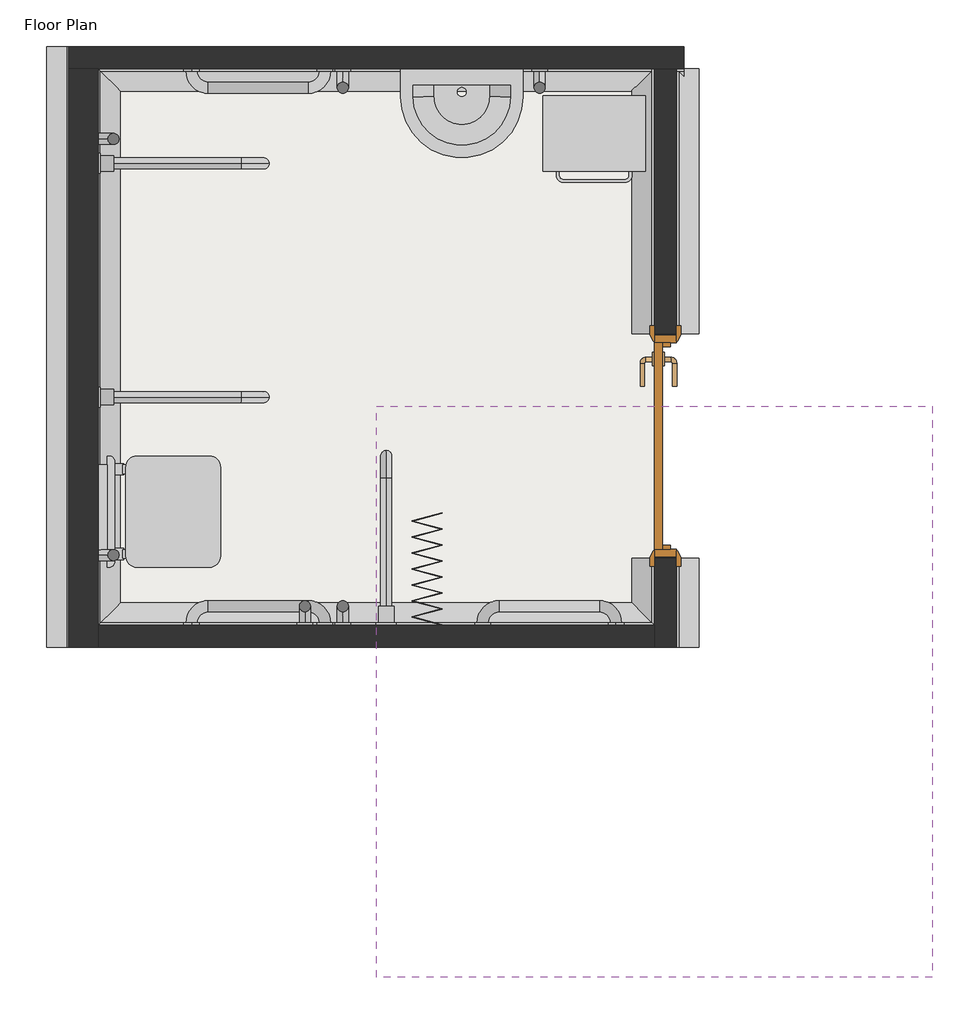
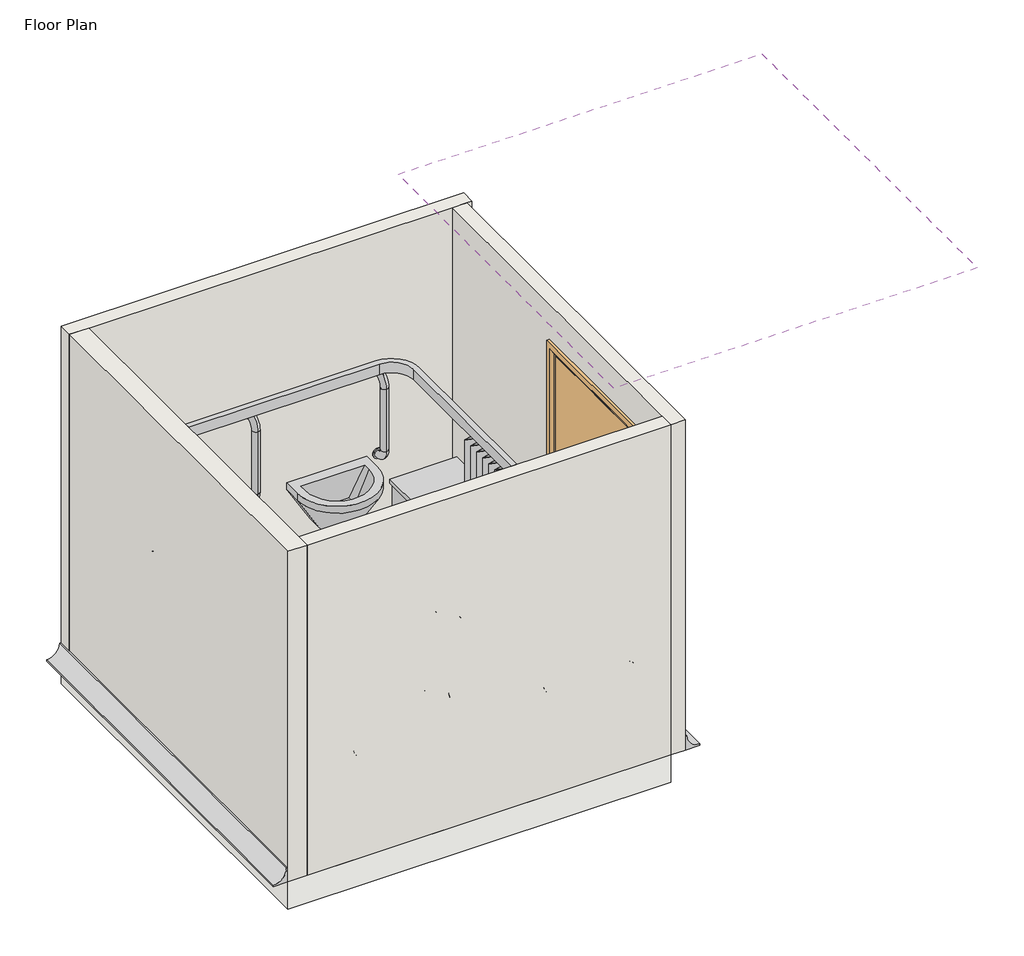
# One storey, incomplete: 19 proxies, 4 walls, 2 furniture elements, 1 covering, 1 door, 1 flow terminal, 1 slab.
"""IFC4 building model written with IfcOpenShell, lengths in millimetres."""

from ifc_helpers import new_model, si_unit, point, frame, frame_2d, origin, origin_with_axes, place, context, project, spatial, polyline, circle_curve, ellipse_curve, trimmed, segment, composite_curve, outline, extrude, faceted_brep, transform, mapped, element, save
from ifc_brep_helpers import plane_surface, revolved_surface, advanced_brep
from components import generic_models_b4c89709, type_1_021b8e3e, type_1_3e4eb001, type_1_f4c963d5, type_1_f76a5bbc, type_1_f275d547, type_1_63a6e16b, type_1_defd54e1, type_1_91922403, door_1010x2110mm_ad0e13af, flow_terminal_9bf15598, furniture_46abfedd, furniture_af9008cf

model = new_model("IFC4")

# Units and contexts
model_context = context("Model", 3, world=origin())
ifc_project = project(units=[si_unit("LENGTHUNIT", "METRE", prefix="MILLI")], contexts=[model_context])

# Site, building, storey
site = spatial("IfcSite", under=ifc_project)
building = spatial("IfcBuilding", under=site)
storey = spatial("IfcBuildingStorey", under=building, Name="Floor Plan", Elevation=0.0)

# Proxies
placement = place(None, origin())
element("IfcBuildingElementProxy", 1, Name="Wall Sweeps", at=placement, inside=storey, context=model_context, shape_type="SweptSolid", body=[
    extrude(outline(composite_curve([segment(polyline([(0.0, 2105.0), (0.0, 2205.0), (10.0, 2205.0)]), True, "CONTINUOUS"), segment(trimmed(circle_curve(frame_2d((100.0, 2205.0)), 90.0), [point((10.0, 2205.0))], [point((100.0, 2115.0))], True, "CARTESIAN"), True, "CONTINUOUS"), segment(polyline([(100.0, 2115.0), (100.0, 2105.0), (0.0, 2105.0)]), True, "CONTINUOUS")], self_intersect=False)), frame((0.0, 2815.0, 0.0), z_axis=(0.0, 1.0, 0.0), x_axis=(0.0, 0.0, 1.0)), (0.0, 0.0, 1.0), 400.0),
    extrude(outline(composite_curve([segment(polyline([(0.0, 2105.0), (0.0, 2205.0), (10.0, 2205.0)]), True, "CONTINUOUS"), segment(trimmed(circle_curve(frame_2d((100.0, 2205.0)), 90.0), [point((10.0, 2205.0))], [point((100.0, 2115.0))], True, "CARTESIAN"), True, "CONTINUOUS"), segment(polyline([(100.0, 2115.0), (100.0, 2105.0), (0.0, 2105.0)]), True, "CONTINUOUS")], self_intersect=False)), frame((0.0, 4225.0, 0.0), z_axis=(0.0, 1.0, 0.0), x_axis=(0.0, 0.0, 1.0)), (0.0, 0.0, 1.0), 1190.0),
])
element("IfcBuildingElementProxy", 2, Name="Wall Sweeps", at=placement, inside=storey, context=model_context, shape_type="AdvancedBrep", body=[
    advanced_brep(
    [(-495.0, 5415.0, 0.0), (-395.0, 5315.0, 0.0), (-395.0, 5315.0, 10.0), (-485.0, 5405.0, 100.0), (-495.0, 5415.0, 100.0), (2139.0, 5415.0, 0.0), (2139.0, 5415.0, 100.0), (2139.0, 5405.0, 100.0), (2139.0, 5315.0, 10.0), (2139.0, 5315.0, 0.0)],
    [
        (0, 1),
        (1, 2),
        (2, 3, ellipse_curve(frame((-395.0, 5315.0, 100.0), z_axis=(0.7071067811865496, 0.7071067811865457, 0.0), x_axis=(0.7071067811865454, -0.7071067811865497, 0.0)), 127.2792206, 90.0)),
        (3, 4),
        (4, 0),
        (5, 6),
        (6, 7),
        (7, 8, circle_curve(frame((2139.0, 5315.0, 100.0), z_axis=(-1.0, 0.0, 0.0), x_axis=(0.0, -1.0, 0.0)), 90.0)),
        (8, 9),
        (9, 5),
        (0, 5),
        (9, 1),
        (8, 2),
        (7, 3),
        (6, 4),
    ],
    [
        plane_surface(frame((-495.0, 5415.0, 304.8), z_axis=(-0.7071067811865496, -0.7071067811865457, 0.0), x_axis=(0.7071067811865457, -0.7071067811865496, 0.0))),
        plane_surface(frame((2139.0, 5415.0, -100.4987562), z_axis=(1.0, 0.0, 0.0), x_axis=(0.0, 1.0, 0.0))),
        plane_surface(frame((-495.0, 5415.0, 0.0), z_axis=(0.0, 0.0, -1.0), x_axis=(1.0, 0.0, 0.0))),
        plane_surface(frame((-395.0, 5315.0, 0.0), z_axis=(0.0, -1.0, 0.0), x_axis=(1.0, 0.0, 0.0))),
        revolved_surface(polyline([(2139.0, 5225.0, 100.0), (-485.0, 5225.0, 100.0)]), (-495.0, 5315.0, 100.0), (1.0, 0.0, 0.0)),
        plane_surface(frame((-485.0, 5405.0, 100.0), z_axis=(0.0, 0.0, 1.0), x_axis=(1.0, 0.0, 0.0))),
        plane_surface(frame((-495.0, 5415.0, 100.0), z_axis=(0.0, 1.0, 0.0), x_axis=(1.0, 0.0, 0.0))),
    ],
    [
        (0, [[1, 2, 3, 4, 5]]),
        (1, [[6, 7, 8, 9, 10]]),
        (2, [[-1, 11, -10, 12]]),
        (3, [[-2, -12, -9, 13]]),
        (4, [[-3, -13, -8, 14]]),
        (5, [[-4, -14, -7, 15]]),
        (6, [[-5, -15, -6, -11]]),
    ],
),
])
element("IfcBuildingElementProxy", 3, Name="Wall Sweeps", at=placement, inside=storey, context=model_context, shape_type="AdvancedBrep", body=[
    advanced_brep(
    [(-495.0, 5415.0, 0.0), (-495.0, 5415.0, 100.0), (-485.0, 5405.0, 100.0), (-395.0, 5315.0, 10.0), (-395.0, 5315.0, 0.0), (-495.0, 2915.0, 0.0), (-395.0, 3015.0, 0.0), (-395.0, 3015.0, 10.0), (-485.0, 2925.0, 100.0), (-495.0, 2915.0, 100.0)],
    [
        (0, 1),
        (1, 2),
        (2, 3, ellipse_curve(frame((-395.0, 5315.0, 100.0), z_axis=(-0.7071067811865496, -0.7071067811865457, 0.0), x_axis=(0.7071067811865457, -0.7071067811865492, 0.0)), 127.2792206, 90.0)),
        (3, 4),
        (4, 0),
        (5, 6),
        (6, 7),
        (7, 8, ellipse_curve(frame((-395.0, 3015.0, 100.0), z_axis=(-0.707106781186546, 0.7071067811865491, 0.0), x_axis=(-0.7071067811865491, -0.7071067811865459, 0.0)), 127.2792206, 90.0)),
        (8, 9),
        (9, 5),
        (0, 5),
        (9, 1),
        (8, 2),
        (7, 3),
        (6, 4),
    ],
    [
        plane_surface(frame((-495.0, 5415.0, -304.8), z_axis=(0.7071067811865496, 0.7071067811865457, 0.0), x_axis=(0.7071067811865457, -0.7071067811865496, 0.0))),
        plane_surface(frame((-495.0, 2915.0, -304.8), z_axis=(0.707106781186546, -0.7071067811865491, 0.0), x_axis=(0.7071067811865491, 0.707106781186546, 0.0))),
        plane_surface(frame((-495.0, 5415.0, 0.0), z_axis=(-1.0, 0.0, 0.0), x_axis=(0.0, -1.0, 0.0))),
        plane_surface(frame((-495.0, 5415.0, 100.0), z_axis=(0.0, 0.0, 1.0), x_axis=(0.0, -1.0, 0.0))),
        revolved_surface(polyline([(-305.0, 2925.0, 100.0), (-305.0, 5405.0, 100.0)]), (-395.0, 5415.0, 100.0), (0.0, -1.0, 0.0)),
        plane_surface(frame((-395.0, 5315.0, 10.0), z_axis=(1.0, 0.0, 0.0), x_axis=(0.0, -1.0, 0.0))),
        plane_surface(frame((-395.0, 5315.0, 0.0), z_axis=(0.0, 0.0, -1.0), x_axis=(0.0, -1.0, 0.0))),
    ],
    [
        (0, [[1, 2, 3, 4, 5]]),
        (1, [[6, 7, 8, 9, 10]]),
        (2, [[-1, 11, -10, 12]]),
        (3, [[-2, -12, -9, 13]]),
        (4, [[-3, -13, -8, 14]]),
        (5, [[-4, -14, -7, 15]]),
        (6, [[-5, -15, -6, -11]]),
    ],
),
])
element("IfcBuildingElementProxy", 4, Name="Wall Sweeps", at=placement, inside=storey, context=model_context, shape_type="AdvancedBrep", body=[
    advanced_brep(
    [(-495.0, 2915.0, 0.0), (-495.0, 2915.0, 100.0), (-485.0, 2925.0, 100.0), (-395.0, 3015.0, 10.0), (-395.0, 3015.0, 0.0), (2005.0, 2915.0, 0.0), (1905.0, 3015.0, 0.0), (1905.0, 3015.0, 10.0), (1995.0, 2925.0, 100.0), (2005.0, 2915.0, 100.0)],
    [
        (0, 1),
        (1, 2),
        (2, 3, ellipse_curve(frame((-395.0, 3015.0, 100.0), z_axis=(0.707106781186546, -0.7071067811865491, 0.0), x_axis=(0.707106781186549, 0.707106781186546, 0.0)), 127.2792206, 90.0)),
        (3, 4),
        (4, 0),
        (5, 6),
        (6, 7),
        (7, 8, ellipse_curve(frame((1905.0, 3015.0, 100.0), z_axis=(-0.7071067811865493, -0.7071067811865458, 0.0), x_axis=(0.7071067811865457, -0.7071067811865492, 0.0)), 127.2792206, 90.0)),
        (8, 9),
        (9, 5),
        (0, 5),
        (9, 1),
        (8, 2),
        (7, 3),
        (6, 4),
    ],
    [
        plane_surface(frame((-495.0, 2915.0, -304.8), z_axis=(-0.707106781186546, 0.7071067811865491, 0.0), x_axis=(0.7071067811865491, 0.707106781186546, 0.0))),
        plane_surface(frame((2005.0, 2915.0, -304.8), z_axis=(0.7071067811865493, 0.7071067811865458, 0.0), x_axis=(-0.7071067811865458, 0.7071067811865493, 0.0))),
        plane_surface(frame((-495.0, 2915.0, 0.0), z_axis=(0.0, -1.0, 0.0), x_axis=(1.0, 0.0, 0.0))),
        plane_surface(frame((-495.0, 2915.0, 100.0), z_axis=(0.0, 0.0, 1.0), x_axis=(1.0, 0.0, 0.0))),
        revolved_surface(polyline([(1995.0, 3105.0, 100.0), (-485.0, 3105.0, 100.0)]), (-495.0, 3015.0, 100.0), (1.0, 0.0, 0.0)),
        plane_surface(frame((-395.0, 3015.0, 10.0), z_axis=(0.0, 1.0, 0.0), x_axis=(1.0, 0.0, 0.0))),
        plane_surface(frame((-395.0, 3015.0, 0.0), z_axis=(0.0, 0.0, -1.0), x_axis=(1.0, 0.0, 0.0))),
    ],
    [
        (0, [[1, 2, 3, 4, 5]]),
        (1, [[6, 7, 8, 9, 10]]),
        (2, [[-1, 11, -10, 12]]),
        (3, [[-2, -12, -9, 13]]),
        (4, [[-3, -13, -8, 14]]),
        (5, [[-4, -14, -7, 15]]),
        (6, [[-5, -15, -6, -11]]),
    ],
),
])
element("IfcBuildingElementProxy", 5, Name="Wall Sweeps", at=placement, inside=storey, context=model_context, shape_type="AdvancedBrep", body=[
    advanced_brep(
    [(2005.0, 2915.0, 0.0), (2005.0, 2915.0, 100.0), (1995.0, 2925.0, 100.0), (1905.0, 3015.0, 10.0), (1905.0, 3015.0, 0.0), (2005.0, 3215.0, 0.0), (1905.0, 3215.0, 0.0), (1905.0, 3215.0, 10.0), (1995.0, 3215.0, 100.0), (2005.0, 3215.0, 100.0)],
    [
        (0, 1),
        (1, 2),
        (2, 3, ellipse_curve(frame((1905.0, 3015.0, 100.0), z_axis=(0.7071067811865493, 0.7071067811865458, 0.0), x_axis=(-0.7071067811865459, 0.7071067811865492, 0.0)), 127.2792206, 90.0)),
        (3, 4),
        (4, 0),
        (5, 6),
        (6, 7),
        (7, 8, circle_curve(frame((1905.0, 3215.0, 100.0), z_axis=(0.0, -1.0, 0.0), x_axis=(-1.0, 0.0, 0.0)), 90.0)),
        (8, 9),
        (9, 5),
        (0, 5),
        (9, 1),
        (8, 2),
        (7, 3),
        (6, 4),
    ],
    [
        plane_surface(frame((2005.0, 2915.0, -304.8), z_axis=(-0.7071067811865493, -0.7071067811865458, 0.0), x_axis=(-0.7071067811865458, 0.7071067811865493, 0.0))),
        plane_surface(frame((1904.5012438, 3215.0, 0.0), z_axis=(0.0, 1.0, 0.0), x_axis=(0.0, 0.0, 1.0))),
        plane_surface(frame((2005.0, 2915.0, 0.0), z_axis=(1.0, 0.0, 0.0), x_axis=(0.0, 1.0, 0.0))),
        plane_surface(frame((2005.0, 2915.0, 100.0), z_axis=(0.0, 0.0, 1.0), x_axis=(0.0, 1.0, 0.0))),
        revolved_surface(polyline([(1815.0, 3215.0, 100.0), (1815.0, 2925.0, 100.0)]), (1905.0, 2915.0, 100.0), (0.0, 1.0, 0.0)),
        plane_surface(frame((1905.0, 3015.0, 10.0), z_axis=(-1.0, 0.0, 0.0), x_axis=(0.0, 1.0, 0.0))),
        plane_surface(frame((1905.0, 3015.0, 0.0), z_axis=(0.0, 0.0, -1.0), x_axis=(0.0, 1.0, 0.0))),
    ],
    [
        (0, [[1, 2, 3, 4, 5]]),
        (1, [[6, 7, 8, 9, 10]]),
        (2, [[-1, 11, -10, 12]]),
        (3, [[-2, -12, -9, 13]]),
        (4, [[-3, -13, -8, 14]]),
        (5, [[-4, -14, -7, 15]]),
        (6, [[-5, -15, -6, -11]]),
    ],
),
    advanced_brep(
    [(2005.0, 4225.0, 0.0), (2005.0, 4225.0, 100.0), (1995.0, 4225.0, 100.0), (1905.0, 4225.0, 10.0), (1905.0, 4225.0, 0.0), (2005.0, 5415.0, 0.0), (1905.0, 5415.0, 0.0), (1905.0, 5415.0, 10.0), (1995.0, 5415.0, 100.0), (2005.0, 5415.0, 100.0)],
    [
        (0, 1),
        (1, 2),
        (2, 3, circle_curve(frame((1905.0, 4225.0, 100.0), z_axis=(0.0, 1.0, 0.0), x_axis=(-1.0, 0.0, 0.0)), 90.0)),
        (3, 4),
        (4, 0),
        (5, 6),
        (6, 7),
        (7, 8, circle_curve(frame((1905.0, 5415.0, 100.0), z_axis=(0.0, -1.0, 0.0), x_axis=(-1.0, 0.0, 0.0)), 90.0)),
        (8, 9),
        (9, 5),
        (0, 5),
        (9, 1),
        (8, 2),
        (7, 3),
        (6, 4),
    ],
    [
        plane_surface(frame((1904.5012438, 4225.0, 0.0), z_axis=(0.0, -1.0, 0.0), x_axis=(0.0, 0.0, 1.0))),
        plane_surface(frame((1904.5012438, 5415.0, 0.0), z_axis=(0.0, 1.0, 0.0), x_axis=(0.0, 0.0, 1.0))),
        plane_surface(frame((2005.0, 4225.0, 0.0), z_axis=(1.0, 0.0, 0.0), x_axis=(0.0, 1.0, 0.0))),
        plane_surface(frame((2005.0, 4225.0, 100.0), z_axis=(0.0, 0.0, 1.0), x_axis=(0.0, 1.0, 0.0))),
        revolved_surface(polyline([(1815.0, 5415.0, 100.0), (1815.0, 4225.0, 100.0)]), (1905.0, 4225.0, 100.0), (0.0, 1.0, 0.0)),
        plane_surface(frame((1905.0, 4225.0, 10.0), z_axis=(-1.0, 0.0, 0.0), x_axis=(0.0, 1.0, 0.0))),
        plane_surface(frame((1905.0, 4225.0, 0.0), z_axis=(0.0, 0.0, -1.0), x_axis=(0.0, 1.0, 0.0))),
    ],
    [
        (0, [[1, 2, 3, 4, 5]]),
        (1, [[6, 7, 8, 9, 10]]),
        (2, [[-1, 11, -10, 12]]),
        (3, [[-2, -12, -9, 13]]),
        (4, [[-3, -13, -8, 14]]),
        (5, [[-4, -14, -7, 15]]),
        (6, [[-5, -15, -6, -11]]),
    ],
),
])
element("IfcBuildingElementProxy", 6, Name="Wall Sweeps", at=placement, inside=storey, context=model_context, shape_type="AdvancedBrep", body=[
    advanced_brep(
    [(-627.0, 5515.0, 0.0), (-727.0, 5515.0, 0.0), (-727.0, 5515.0, 10.0), (-637.0, 5515.0, 100.0), (-627.0, 5515.0, 100.0), (-627.0, 2815.0, 0.0), (-627.0, 2815.0, 100.0), (-637.0, 2815.0, 100.0), (-727.0, 2815.0, 10.0), (-727.0, 2815.0, 0.0), (-627.0, 5415.0, 0.0)],
    [
        (0, 1),
        (1, 2),
        (2, 3, circle_curve(frame((-727.0, 5515.0, 100.0), z_axis=(0.0, -1.0, 0.0), x_axis=(-1.0, 0.0, 0.0)), 90.0)),
        (3, 4),
        (4, 0),
        (5, 6),
        (6, 7),
        (7, 8, circle_curve(frame((-727.0, 2815.0, 100.0), z_axis=(0.0, 1.0, 0.0), x_axis=(-1.0, 0.0, 0.0)), 90.0)),
        (8, 9),
        (9, 5),
        (0, 10),
        (10, 5),
        (9, 1),
        (8, 2),
        (7, 3),
        (6, 4),
    ],
    [
        plane_surface(frame((-727.4987562, 5515.0, 0.0), z_axis=(0.0, 1.0, 0.0), x_axis=(0.0, 0.0, -1.0))),
        plane_surface(frame((-727.4987562, 2815.0, 0.0), z_axis=(0.0, -1.0, 0.0), x_axis=(0.0, 0.0, -1.0))),
        plane_surface(frame((-627.0, 5515.0, 0.0), z_axis=(0.0, 0.0, -1.0), x_axis=(0.0, -1.0, 0.0))),
        plane_surface(frame((-727.0, 5515.0, 0.0), z_axis=(-1.0, 0.0, 0.0), x_axis=(0.0, -1.0, 0.0))),
        revolved_surface(polyline([(-817.0, 2815.0, 100.0), (-817.0, 5515.0, 100.0)]), (-727.0, 5515.0, 100.0), (0.0, -1.0, 0.0)),
        plane_surface(frame((-637.0, 5515.0, 100.0), z_axis=(0.0, 0.0, 1.0), x_axis=(0.0, -1.0, 0.0))),
        plane_surface(frame((-627.0, 5515.0, 100.0), z_axis=(1.0, 0.0, 0.0), x_axis=(0.0, -1.0, 0.0))),
    ],
    [
        (0, [[1, 2, 3, 4, 5]]),
        (1, [[6, 7, 8, 9, 10]]),
        (2, [[-1, 11, 12, -10, 13]]),
        (3, [[-2, -13, -9, 14]]),
        (4, [[-3, -14, -8, 15]]),
        (5, [[-4, -15, -7, 16]]),
        (6, [[-5, -16, -6, -12, -11]]),
    ],
),
])
generic_models_shape = generic_models_b4c89709(model_context)
element("IfcBuildingElementProxy", 7, Name="BIMHealth-Seat_Shower-LOD2A-v1 : BIMHealth-Seat_Shower-LOD2A-v1", ObjectType="BIMHealth-Seat_Shower-LOD2A-v1 : BIMHealth-Seat_Shower-LOD2A-v1", at=placement, inside=storey, context=model_context, shape_type="MappedRepresentation", body=[
    mapped(generic_models_shape, transform((-495.0, 3675.0, 0.0), x_axis=(0.0, -1.0000000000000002, 0.0), y_axis=(1.0000000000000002, 0.0, 0.0), z_axis=(0.0, 0.0, 1.0))),
])
type_1_shape = type_1_021b8e3e(model_context)
element("IfcBuildingElementProxy", 8, Name="BIMHealth-Grab_Rail_Horizontal-LOD2A-v1 : Type 1", ObjectType="BIMHealth-Grab_Rail_Horizontal-LOD2A-v1 : Type 1", at=placement, inside=storey, context=model_context, shape_type="MappedRepresentation", body=[
    mapped(type_1_shape, transform((100.0, 2865.0, 0.0), x_axis=(1.0, 0.0, 0.0), y_axis=(0.0, 1.0, 0.0), z_axis=(0.0, 0.0, 1.0))),
])
type_1_2_shape = type_1_3e4eb001(model_context)
element("IfcBuildingElementProxy", 9, Name="BIMHealth-Grab_Rail_Vertical-LOD2A-v1 : Type 1", ObjectType="BIMHealth-Grab_Rail_Vertical-LOD2A-v1 : Type 1", at=placement, inside=storey, context=model_context, shape_type="MappedRepresentation", body=[
    mapped(type_1_2_shape, transform((730.0, 5465.0, 0.0), x_axis=(-1.0, 0.0, 0.0), y_axis=(0.0, -1.0, 0.0), z_axis=(0.0, 0.0, 1.0))),
])
type_1_3_shape = type_1_f4c963d5(model_context)
element("IfcBuildingElementProxy", 10, Name="BIMHealth-Grab_Rail_Vertical-LOD2A-v1 : Type 1", ObjectType="BIMHealth-Grab_Rail_Vertical-LOD2A-v1 : Type 1", at=placement, inside=storey, context=model_context, shape_type="MappedRepresentation", body=[
    mapped(type_1_3_shape, transform((1365.0, 5465.0, 0.0), x_axis=(1.0, 0.0, 0.0), y_axis=(0.0, 1.0, 0.0), z_axis=(0.0, 0.0, 1.0))),
])
element("IfcBuildingElementProxy", 11, Name="BIMHealth-Grab_Rail_Vertical-LOD2A-v1 : Type 1", ObjectType="BIMHealth-Grab_Rail_Vertical-LOD2A-v1 : Type 1", at=placement, inside=storey, context=model_context, shape_type="MappedRepresentation", body=[
    mapped(type_1_3_shape, transform((730.0, 2865.0, 0.0), x_axis=(-1.0, 0.0, 0.0), y_axis=(0.0, -1.0, 0.0), z_axis=(0.0, 0.0, 1.0))),
])
element("IfcBuildingElementProxy", 12, Name="BIMHealth-Grab_Rail_Vertical-LOD2A-v1 : Type 1", ObjectType="BIMHealth-Grab_Rail_Vertical-LOD2A-v1 : Type 1", at=placement, inside=storey, context=model_context, shape_type="MappedRepresentation", body=[
    mapped(type_1_3_shape, transform((560.0, 2865.0, 100.0), x_axis=(-1.0, 0.0, 0.0), y_axis=(0.0, -1.0, 0.0), z_axis=(0.0, 0.0, 1.0))),
])
type_1_4_shape = type_1_f76a5bbc(model_context)
element("IfcBuildingElementProxy", 13, Name="BIMHealth-Grab_Rail_Horizontal-LOD2A-v1 : Type 1", ObjectType="BIMHealth-Grab_Rail_Horizontal-LOD2A-v1 : Type 1", at=placement, inside=storey, context=model_context, shape_type="MappedRepresentation", body=[
    mapped(type_1_4_shape, transform((100.0, 5465.0, 0.0), x_axis=(1.0, 0.0, 0.0), y_axis=(0.0, 1.0, 0.0), z_axis=(0.0, 0.0, 1.0))),
])
element("IfcBuildingElementProxy", 14, Name="BIMHealth-Grab_Rail_Horizontal-LOD2A-v1 : Type 1", ObjectType="BIMHealth-Grab_Rail_Horizontal-LOD2A-v1 : Type 1", at=placement, inside=storey, context=model_context, shape_type="MappedRepresentation", body=[
    mapped(type_1_4_shape, transform((1658.5052831, 2865.0, 0.0), x_axis=(-1.0, 0.0, 0.0), y_axis=(0.0, -1.0, 0.0), z_axis=(0.0, 0.0, 1.0))),
])
type_1_5_shape = type_1_f275d547(model_context)
element("IfcBuildingElementProxy", 15, Name="BIMHealth-Grab_Rail_Drop_Down-LOD2A-v1 : Type 1", ObjectType="BIMHealth-Grab_Rail_Drop_Down-LOD2A-v1 : Type 1", at=placement, inside=storey, context=model_context, shape_type="MappedRepresentation", body=[
    mapped(type_1_5_shape, transform((925.0, 2865.0, 0.0), x_axis=(-1.0, 0.0, 0.0), y_axis=(0.0, -1.0, 0.0), z_axis=(0.0, 0.0, 1.0))),
])
type_1_6_shape = type_1_63a6e16b(model_context)
element("IfcBuildingElementProxy", 16, Name="BIMHealth-Grab_Rail_Vertical-LOD2A-v1 : Type 1", ObjectType="BIMHealth-Grab_Rail_Vertical-LOD2A-v1 : Type 1", at=placement, inside=storey, context=model_context, shape_type="MappedRepresentation", body=[
    mapped(type_1_6_shape, transform((-561.0, 3355.0, 0.0), x_axis=(0.0, -1.0, 0.0), y_axis=(1.0, 0.0, 0.0), z_axis=(0.0, 0.0, 1.0))),
])
type_1_7_shape = type_1_defd54e1(model_context)
element("IfcBuildingElementProxy", 17, Name="BIMHealth-Grab_Rail_Vertical-LOD2A-v1 : Type 1", ObjectType="BIMHealth-Grab_Rail_Vertical-LOD2A-v1 : Type 1", at=placement, inside=storey, context=model_context, shape_type="MappedRepresentation", body=[
    mapped(type_1_7_shape, transform((-561.0, 4975.0, 0.0), x_axis=(0.0, 1.0, 0.0), y_axis=(-1.0, 0.0, 0.0), z_axis=(0.0, 0.0, 1.0))),
])
type_1_8_shape = type_1_91922403(model_context)
element("IfcBuildingElementProxy", 18, Name="BIMHealth-Grab_Rail_Drop_Down-LOD2A-v1 : Type 1", ObjectType="BIMHealth-Grab_Rail_Drop_Down-LOD2A-v1 : Type 1", at=placement, inside=storey, context=model_context, shape_type="MappedRepresentation", body=[
    mapped(type_1_8_shape, transform((-561.0, 4865.0, 0.0), x_axis=(0.0, 1.0, 0.0), y_axis=(-1.0, 0.0, 0.0), z_axis=(0.0, 0.0, 1.0))),
])
element("IfcBuildingElementProxy", 19, Name="BIMHealth-Grab_Rail_Drop_Down-LOD2A-v1 : Type 1", ObjectType="BIMHealth-Grab_Rail_Drop_Down-LOD2A-v1 : Type 1", at=placement, inside=storey, context=model_context, shape_type="MappedRepresentation", body=[
    mapped(type_1_8_shape, transform((-561.0, 3815.0, 0.0), x_axis=(0.0, 1.0, 0.0), y_axis=(-1.0, 0.0, 0.0), z_axis=(0.0, 0.0, 1.0))),
])

# Covering
element("IfcCovering", 20, ObjectType="BIMHealth - Generic Ceiling", at=placement, inside=storey, context=model_context, shape_type="SweptSolid", body=[
    extrude(outline(polyline([(3256.0020268, 1331.4241738), (756.0020268, 1331.4241738), (756.0020268, 3898.7260975), (3256.0020268, 3898.7260975), (3256.0020268, 1331.4241738)])), frame((0.0, 0.0, 4000.0), z_axis=(0.0, 0.0, 1.0), x_axis=(1.0, 0.0, 0.0)), (0.0, 0.0, 1.0), 52.0),
])

# Door
door_1010x2110mm_shape = door_1010x2110mm_ad0e13af(model_context)
element("IfcDoor", 21, ObjectType="BIMHealth-Single_Door-LOD2A-v1 : 1010x2110mm", at=placement, inside=storey, context=model_context, shape_type="MappedRepresentation", body=[
    mapped(door_1010x2110mm_shape, transform((2055.0, 3720.0, 0.0), x_axis=(0.0, -1.0, 0.0), y_axis=(1.0, 0.0, 0.0), z_axis=(0.0, 0.0, 1.0))),
])

# Flow terminal
flow_terminal_shape = flow_terminal_9bf15598(model_context)
element("IfcFlowTerminal", 22, ObjectType="BIMHealth-Wash_basin_Doc_M-LOD2A-v1 : BIMHealth-Wash_basin_Doc_M-LOD2A-v1", at=placement, inside=storey, context=model_context, shape_type="MappedRepresentation", body=[
    mapped(flow_terminal_shape, transform((1415.0, 5415.0, 500.0), x_axis=(-1.0000000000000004, 0.0, 0.0), y_axis=(0.0, -1.0000000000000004, 0.0), z_axis=(0.0, 0.0, 1.0))),
])

# Furniture
furniture_shape = furniture_46abfedd(model_context)
element("IfcFurniture", 23, ObjectType="BIMHealth-Curtain_Doc_M-LOD2A-v1 : BIMHealth-Curtain_Doc_M-LOD2A-v1", at=placement, inside=storey, context=model_context, shape_type="MappedRepresentation", body=[
    mapped(furniture_shape, transform((1005.0, 2915.0, 0.0), x_axis=(0.0, 1.0000000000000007, 0.0), y_axis=(-1.0000000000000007, 0.0, 0.0), z_axis=(0.0, 0.0, 1.0))),
])
furniture_2_shape = furniture_af9008cf(model_context)
element("IfcFurniture", 24, ObjectType="BIMHealth-Bin_Clinical_Foot_Operated-LOD2A-v1 : BIMHealth-Bin_Clinical_Foot_Operated-LOD2A-v1", at=placement, inside=storey, context=model_context, shape_type="MappedRepresentation", body=[
    mapped(furniture_2_shape, transform((1955.0, 5285.0, 0.0), x_axis=(-1.0000000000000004, 0.0, 0.0), y_axis=(0.0, -1.0000000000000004, 0.0), z_axis=(0.0, 0.0, 1.0))),
])

# Slab
element("IfcSlab", 25, ObjectType="BIMHealth - Generic Floor", at=placement, inside=storey, context=model_context, shape_type="SweptSolid", body=[
    extrude(outline(polyline([(2005.0, 5515.0), (2005.0, 2815.0), (-627.0, 2815.0), (-627.0, 5515.0), (2005.0, 5515.0)])), frame((0.0, 0.0, -200.0), z_axis=(0.0, 0.0, 1.0), x_axis=(1.0, 0.0, 0.0)), (0.0, 0.0, 1.0), 200.0),
])

# Walls
element("IfcWall", 26, ObjectType="BHMS-FR60 Partn70-vinyl sktg-both sides", at=placement, inside=storey, context=model_context, shape_type="Brep", body=[
    faceted_brep([(-627.0, 5415.0, 0.0), (-627.0, 2815.0, 0.0), (-627.0, 2815.0, 100.0), (-627.0, 2815.0, 2400.0), (-627.0, 5415.0, 2400.0), (-495.0, 5415.0, 0.0), (-495.0, 5415.0, 2400.0), (-495.0, 2915.0, 2400.0), (-495.0, 2815.0, 2400.0), (-495.0, 2815.0, 0.0), (-495.0, 2915.0, 0.0)], [[[0, 1, 2, 3, 4]], [[5, 6, 7, 8, 9, 10]], [[1, 0, 5, 10, 9]], [[4, 3, 8, 7, 6]], [[0, 4, 6, 5]], [[3, 2, 1, 9, 8]]]),
])
element("IfcWall", 27, ObjectType="BIMHealth - Generic Wall", at=placement, inside=storey, context=model_context, shape_type="Brep", body=[
    faceted_brep([(-627.0, 5415.0, 0.0), (-495.0, 5415.0, 0.0), (2005.0, 5415.0, 0.0), (2105.0, 5415.0, 0.0), (2139.0, 5415.0, 0.0), (2139.0, 5415.0, 100.0), (2139.0, 5415.0, 2400.0), (2105.0, 5415.0, 2400.0), (2005.0, 5415.0, 2400.0), (-495.0, 5415.0, 2400.0), (-627.0, 5415.0, 2400.0), (-627.0, 5515.0, 0.0), (-627.0, 5515.0, 2400.0), (2139.0, 5515.0, 2400.0), (2139.0, 5515.0, 0.0)], [[[0, 1, 2, 3, 4, 5, 6, 7, 8, 9, 10]], [[11, 12, 13, 14]], [[4, 3, 2, 1, 0, 11, 14]], [[6, 5, 4, 14, 13]], [[10, 9, 8, 7, 6, 13, 12]], [[0, 10, 12, 11]]]),
])
element("IfcWall", 28, ObjectType="BIMHealth - Generic Wall", at=placement, inside=storey, context=model_context, shape_type="SweptSolid", body=[
    extrude(outline(polyline([(2005.0, 2815.0), (-495.0, 2815.0), (-495.0, 2915.0), (2005.0, 2915.0), (2005.0, 2815.0)])), origin_with_axes(), (0.0, 0.0, 1.0), 2400.0),
])
element("IfcWall", 29, ObjectType="BIMHealth - Generic Wall 2", at=placement, inside=storey, context=model_context, shape_type="Brep", body=[
    faceted_brep([(2105.0, 5415.0, 2400.0), (2105.0, 2815.0, 2400.0), (2105.0, 2815.0, 100.0), (2105.0, 2815.0, 0.0), (2105.0, 3215.0, 0.0), (2105.0, 3215.0, 100.0), (2105.0, 3215.0, 2110.0), (2105.0, 4225.0, 2110.0), (2105.0, 4225.0, 100.0), (2105.0, 4225.0, 0.0), (2105.0, 5415.0, 0.0), (2105.0, 5415.0, 100.0), (2005.0, 2815.0, 2400.0), (2005.0, 2915.0, 2400.0), (2005.0, 5415.0, 2400.0), (2005.0, 5415.0, 100.0), (2005.0, 5415.0, 0.0), (2005.0, 4225.0, 0.0), (2005.0, 4225.0, 100.0), (2005.0, 4225.0, 2110.0), (2005.0, 3215.0, 2110.0), (2005.0, 3215.0, 100.0), (2005.0, 3215.0, 0.0), (2005.0, 2915.0, 0.0), (2005.0, 2815.0, 0.0)], [[[0, 1, 2, 3, 4, 5, 6, 7, 8, 9, 10, 11]], [[12, 13, 14, 15, 16, 17, 18, 19, 20, 21, 22, 23, 24]], [[16, 10, 9, 17]], [[3, 24, 23, 22, 4]], [[1, 0, 14, 13, 12]], [[20, 6, 5, 4, 22, 21]], [[6, 20, 19, 7]], [[7, 19, 18, 17, 9, 8]], [[0, 11, 10, 16, 15, 14]], [[3, 2, 1, 12, 24]]]),
])

save(model, "model.ifc")
